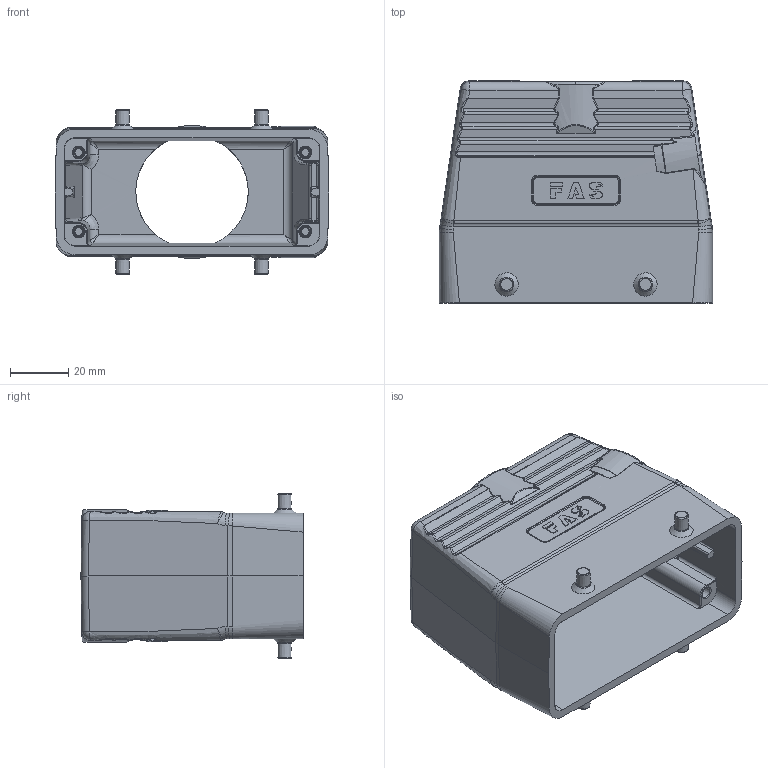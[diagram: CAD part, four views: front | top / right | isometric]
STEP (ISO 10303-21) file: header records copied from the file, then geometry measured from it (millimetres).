
FILE_DESCRIPTION (( 'STEP AP203' ), '1' );
FILE_NAME ('H16B-TGH-M40.STEP', '2023-06-07T09:02:24', ( '' ), ( '' ), 'SwSTEP 2.0', 'SolidWorks 2016', '' );
FILE_SCHEMA (( 'CONFIG_CONTROL_DESIGN' ));
Length unit declared in the file: millimetre
Products named in the file (1): H16B-TGH-M40
Bounding box: 93.5 x 76 x 56.4 mm (x, y, z)
Volume: 87404.6 mm3; surface area: 41432.4 mm2
Topology: 1 solids, 1 shells, 608 faces, 1560 edges, 980 vertices
Faces by surface type: bspline 198, plane 177, cylinder 164, cone 31, torus 26, sphere 12
Full cylindrical faces by diameter (mm): 38.5 x1
Entity records: 32548 total; most frequent: CARTESIAN_POINT 20671, ORIENTED_EDGE 3002, DIRECTION 1553, EDGE_CURVE 1501, VERTEX_POINT 956, B_SPLINE_CURVE_WITH_KNOTS 816, EDGE_LOOP 661, FACE_OUTER_BOUND 612
